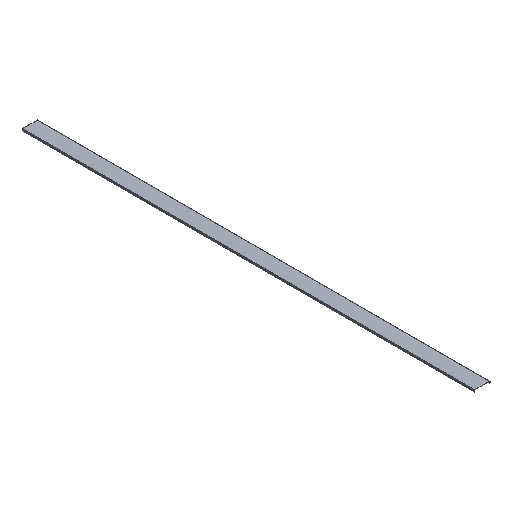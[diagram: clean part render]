
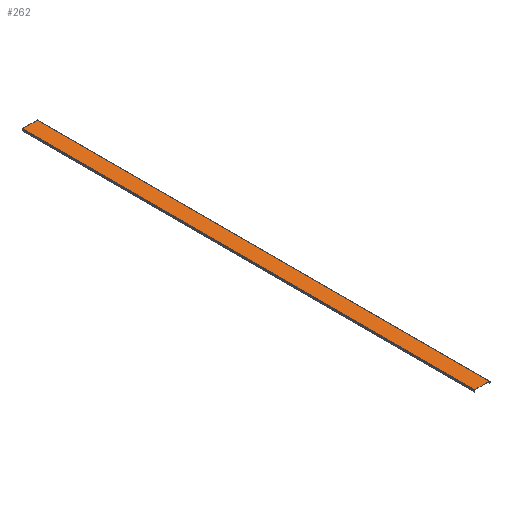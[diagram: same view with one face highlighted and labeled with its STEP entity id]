
A CAD part, isometric view. The second image highlights one B-rep face of the part: STEP entity #262.
In plain terms, the highlighted planar face has unit normal (0, 0, 1).
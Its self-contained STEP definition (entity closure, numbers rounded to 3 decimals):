
#36=FACE_OUTER_BOUND('',#50,.T.);
#50=EDGE_LOOP('',(#207,#208,#209,#210));
#76=LINE('',#434,#104);
#77=LINE('',#437,#105);
#78=LINE('',#439,#106);
#79=LINE('',#440,#107);
#104=VECTOR('',#356,10.);
#105=VECTOR('',#359,10.);
#106=VECTOR('',#360,10.);
#107=VECTOR('',#361,10.);
#129=VERTEX_POINT('',#430);
#130=VERTEX_POINT('',#432);
#131=VERTEX_POINT('',#436);
#132=VERTEX_POINT('',#438);
#162=EDGE_CURVE('',#129,#130,#76,.T.);
#163=EDGE_CURVE('',#131,#129,#77,.T.);
#164=EDGE_CURVE('',#132,#130,#78,.T.);
#165=EDGE_CURVE('',#131,#132,#79,.T.);
#207=ORIENTED_EDGE('',*,*,#163,.T.);
#208=ORIENTED_EDGE('',*,*,#162,.T.);
#209=ORIENTED_EDGE('',*,*,#164,.F.);
#210=ORIENTED_EDGE('',*,*,#165,.F.);
#249=PLANE('',#296);
#262=ADVANCED_FACE('',(#36),#249,.T.);
#296=AXIS2_PLACEMENT_3D('',#435,#357,#358);
#356=DIRECTION('',(0.,1.,0.));
#357=DIRECTION('center_axis',(0.,0.,1.));
#358=DIRECTION('ref_axis',(1.,0.,0.));
#359=DIRECTION('',(1.,0.,0.));
#360=DIRECTION('',(1.,0.,0.));
#361=DIRECTION('',(0.,1.,0.));
#430=CARTESIAN_POINT('',(100.,0.,12.));
#432=CARTESIAN_POINT('',(100.,3000.,12.));
#434=CARTESIAN_POINT('',(100.,0.,12.));
#435=CARTESIAN_POINT('Origin',(2.,0.,12.));
#436=CARTESIAN_POINT('',(2.,0.,12.));
#437=CARTESIAN_POINT('',(2.,0.,12.));
#438=CARTESIAN_POINT('',(2.,3000.,12.));
#439=CARTESIAN_POINT('',(2.,3000.,12.));
#440=CARTESIAN_POINT('',(2.,0.,12.));
